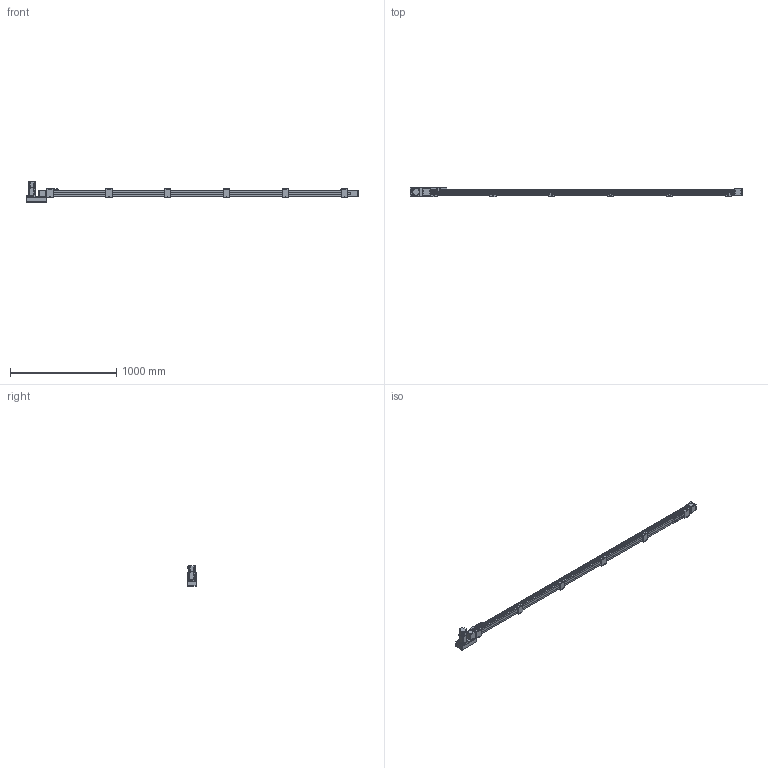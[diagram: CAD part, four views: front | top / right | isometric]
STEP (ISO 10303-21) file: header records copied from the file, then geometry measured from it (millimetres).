
FILE_DESCRIPTION(/* description */ ('STEP AP214'),/* implementation_level */ '2;1');
FILE_NAME(/* name */ 'SK60-P13-S2700-L-T40-C1-N(0)',/* time_stamp */ '2023-04-06T04:12:22+02:00',/* author */ ('License CC BY-ND 4.0'),/* organization */ ('CADENAS'),/* preprocessor_version */ 'ST-DEVELOPER v19.3',/* originating_system */ 'PARTsolutions',/* authorisation */ ' ');
FILE_SCHEMA (('AUTOMOTIVE_DESIGN {1 0 10303 214 3 1 1}'));
Length unit declared in the file: millimetre
Products named in the file (10): SK60-P13-S2700-L-T40-C1-N(0); PSC140-sensor; SK60-S450_seat; SK60-S450-BL-C1_slider; SK60_body3; SK60_body6; SK60-BL_body2; T40-p1; SK60-L_fb; SK60-S2700-L-C1_body
Assembly tree (20 placements, depth 2):
  SK60-P13-S2700-L-T40-C1-N(0)
    PSC140-sensor  x3
    SK60-S450_seat  x6
    SK60-S450-BL-C1_slider
    SK60_body3  x3
    SK60_body6  x2
    SK60-BL_body2  x2
    T40-p1
    SK60-L_fb
    SK60-S2700-L-C1_body
Bounding box: 3120.5 x 90 x 189.7 mm (x, y, z)
Volume: 11416124.7 mm3; surface area: 1343947.4 mm2
Topology: 20 solids, 20 shells, 986 faces, 2440 edges, 1605 vertices
Faces by surface type: plane 620, cylinder 326, cone 38, torus 2
Full cylindrical faces by diameter (mm): 2.8 x3, 3.3 x4, 4 x2, 4.5 x30, 4.6 x3, 4.917 x32, 5 x6, 5.478 x4, 5.5 x35, 6.5 x12, 7 x2, 8 x4, 8.5 x4, 9.988 x4, 10 x24, 14 x1, 47 x3, 50 x2
Entity records: 18687 total; most frequent: DIRECTION 3192, CARTESIAN_POINT 3154, ORIENTED_EDGE 2940, EDGE_CURVE 1470, AXIS2_PLACEMENT_3D 1072, LINE 1048, VECTOR 1048, VERTEX_POINT 1034
